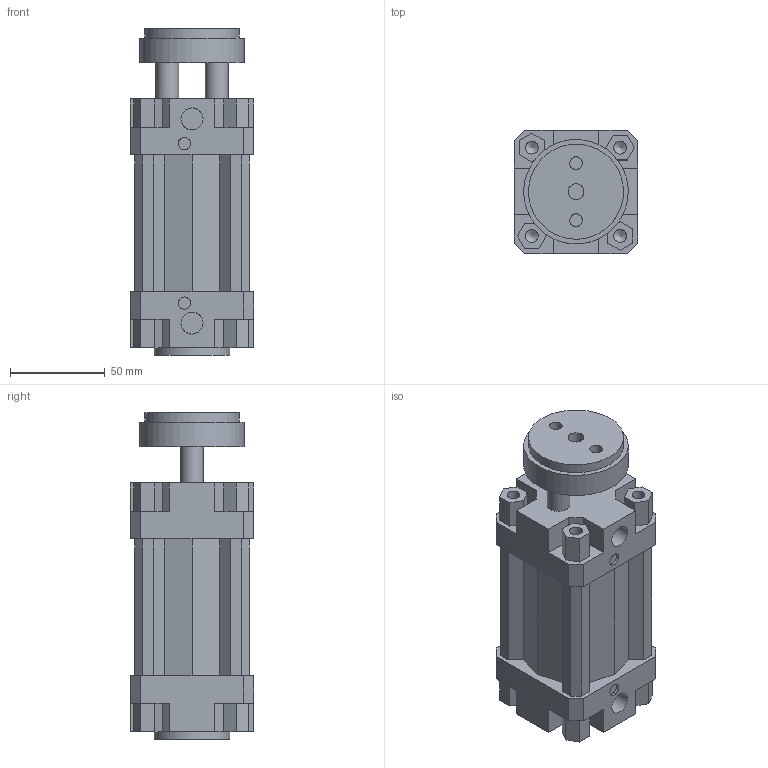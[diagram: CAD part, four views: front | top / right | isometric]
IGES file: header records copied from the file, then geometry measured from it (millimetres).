
Global section: file name: 132#_050_0025_01; native system: Autodesk Inventor 2014; preprocessor: unknown; author: A. Manieri; date: 20161006.155638; units: millimetre
Bounding box: 65 x 65 x 172 mm (x, y, z)
Volume: 432279.3 mm3; surface area: 96054.1 mm2
Topology: 2 solids, 2 shells, 180 faces, 492 edges, 336 vertices
Faces by surface type: bspline 180
